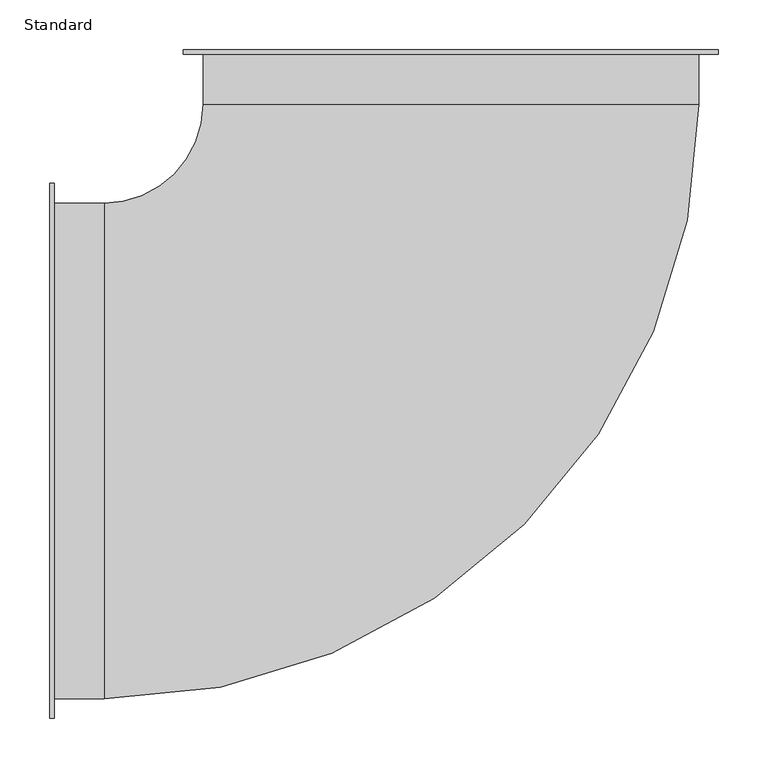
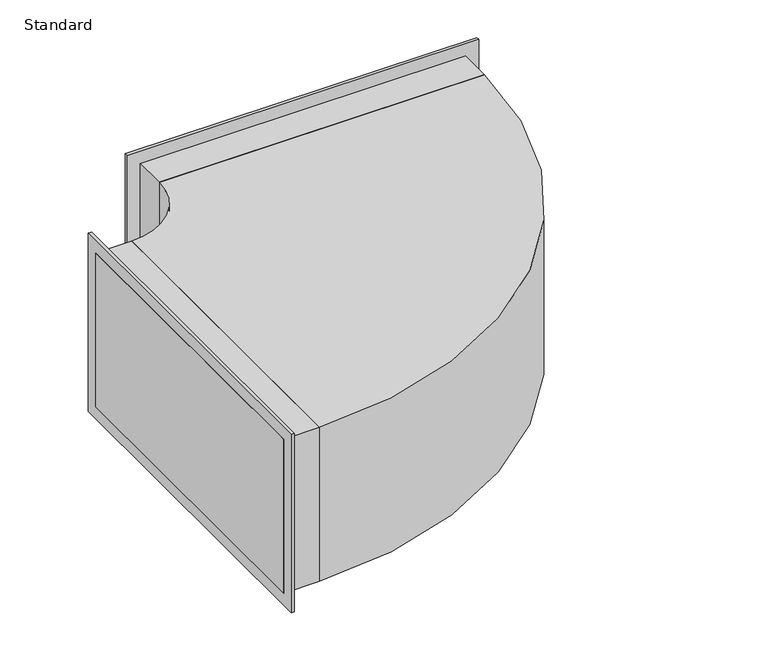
"""IFC4 building model written with IfcOpenShell, lengths in millimetres: duct fitting geometry, Bogen rechteck BS : Standard."""

from ifc_helpers import new_model, si_unit, point, frame, frame_2d, origin, place, context, project, spatial, polyline, circle_curve, trimmed, segment, composite_curve, outline, extrude, source, transform, mapped, element, save


def standard_5b17af85(model_context):
    return source(origin(), model_context, "Body", "SweptSolid", [
        extrude(outline(polyline([(250.0, 350.0), (-250.0, 350.0), (-250.0, 405.0), (250.0, 405.0), (250.0, 350.0)])), frame((0.0, 0.0, -125.0), z_axis=(0.0, 0.0, 1.0), x_axis=(1.0, 0.0, 0.0)), (0.0, 0.0, 1.0), 250.0),
        extrude(outline(polyline([(-405.0, 250.0), (-350.0, 250.0), (-350.0, -250.0), (-405.0, -250.0), (-405.0, 250.0)])), frame((0.0, 0.0, -125.0), z_axis=(0.0, 0.0, 1.0), x_axis=(1.0, 0.0, 0.0)), (0.0, 0.0, 1.0), 250.0),
        extrude(outline(composite_curve([segment(trimmed(circle_curve(frame_2d((-350.0, 350.0)), 600.0), [point((250.0, 350.0))], [point((-350.0, -250.0))], False, "CARTESIAN"), True, "CONTINUOUS"), segment(polyline([(-350.0, -250.0), (-350.0, 250.0)]), True, "CONTINUOUS"), segment(trimmed(circle_curve(frame_2d((-350.0, 350.0)), 100.0), [point((-350.0, 250.0))], [point((-250.0, 350.0))], True, "CARTESIAN"), True, "CONTINUOUS"), segment(polyline([(-250.0, 350.0), (250.0, 350.0)]), True, "CONTINUOUS")], self_intersect=False)), frame((0.0, 0.0, -125.0), z_axis=(0.0, 0.0, 1.0), x_axis=(1.0, 0.0, 0.0)), (0.0, 0.0, 1.0), 250.0),
        extrude(outline(polyline([(-405.0, -270.0), (-405.0, 270.0), (-400.0, 270.0), (-400.0, -270.0), (-405.0, -270.0)])), frame((0.0, 0.0, -145.0), z_axis=(0.0, 0.0, 1.0), x_axis=(1.0, 0.0, 0.0)), (0.0, 0.0, 1.0), 290.0),
        extrude(outline(polyline([(270.0, 400.0), (-270.0, 400.0), (-270.0, 405.0), (270.0, 405.0), (270.0, 400.0)])), frame((0.0, 0.0, -145.0), z_axis=(0.0, 0.0, 1.0), x_axis=(1.0, 0.0, 0.0)), (0.0, 0.0, 1.0), 290.0),
    ])


if __name__ == "__main__":
    model = new_model("IFC4")
    model_context = context("Model", 3, world=origin())
    ifc_project = project(units=[si_unit("LENGTHUNIT", "METRE", prefix="MILLI")], contexts=[model_context])
    site = spatial("IfcSite", under=ifc_project)
    building = spatial("IfcBuilding", under=site)
    placement = place(None, origin())
    standard_shape = standard_5b17af85(model_context)
    element("IfcDuctFitting", 1, ObjectType="Bogen rechteck BS : Standard", at=placement, inside=building, context=model_context, shape_type="MappedRepresentation", body=[
        mapped(standard_shape, transform((0.0, 0.0, 0.0), x_axis=(1.0, 0.0, 0.0), y_axis=(0.0, 1.0, 0.0), z_axis=(0.0, 0.0, 1.0))),
    ])
    save(model, "model.ifc")
